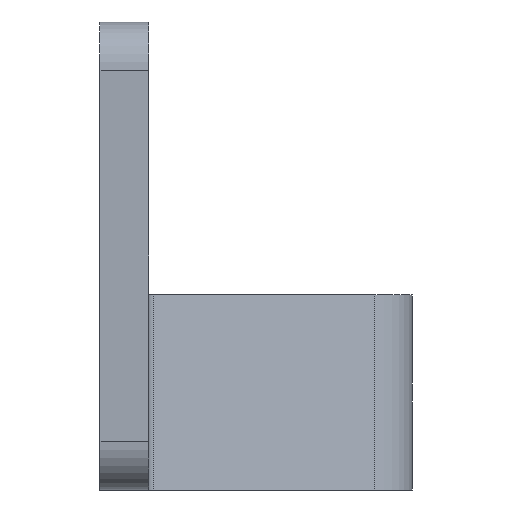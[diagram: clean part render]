
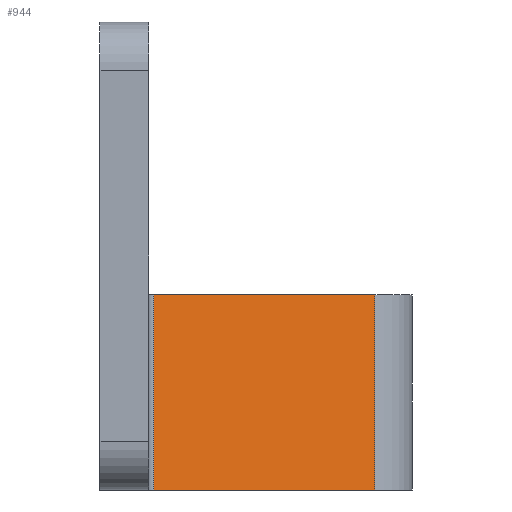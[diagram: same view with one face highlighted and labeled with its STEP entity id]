
A CAD part, left-side view. The second image highlights one B-rep face of the part: STEP entity #944.
In plain terms, the highlighted planar face has unit normal (-0.94, -0.342, 0).
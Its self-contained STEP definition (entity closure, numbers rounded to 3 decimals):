
#116=FACE_OUTER_BOUND('',#173,.T.);
#173=EDGE_LOOP('',(#780,#781,#782,#783));
#259=LINE('',#1556,#353);
#268=LINE('',#1584,#362);
#270=LINE('',#1590,#364);
#271=LINE('',#1591,#365);
#353=VECTOR('',#1262,10.);
#362=VECTOR('',#1289,10.);
#364=VECTOR('',#1295,10.);
#365=VECTOR('',#1296,10.);
#451=VERTEX_POINT('',#1553);
#452=VERTEX_POINT('',#1555);
#462=VERTEX_POINT('',#1583);
#464=VERTEX_POINT('',#1589);
#564=EDGE_CURVE('',#452,#451,#259,.T.);
#578=EDGE_CURVE('',#452,#462,#268,.T.);
#581=EDGE_CURVE('',#451,#464,#270,.T.);
#582=EDGE_CURVE('',#464,#462,#271,.T.);
#780=ORIENTED_EDGE('',*,*,#564,.T.);
#781=ORIENTED_EDGE('',*,*,#581,.T.);
#782=ORIENTED_EDGE('',*,*,#582,.T.);
#783=ORIENTED_EDGE('',*,*,#578,.F.);
#896=PLANE('',#1054);
#944=ADVANCED_FACE('',(#116),#896,.F.);
#1054=AXIS2_PLACEMENT_3D('',#1588,#1293,#1294);
#1262=DIRECTION('',(-0.342,0.94,0.));
#1289=DIRECTION('',(0.,0.,-1.));
#1293=DIRECTION('center_axis',(0.94,0.342,0.));
#1294=DIRECTION('ref_axis',(0.,0.,
1.));
#1295=DIRECTION('',(0.,0.,-1.));
#1296=DIRECTION('',(0.342,-0.94,0.));
#1553=CARTESIAN_POINT('',(-33.309,-5.526,20.));
#1555=CARTESIAN_POINT('',(-25.063,-28.184,20.));
#1556=CARTESIAN_POINT('',(-22.109,-36.3,20.));
#1583=CARTESIAN_POINT('',(-25.063,-28.184,0.));
#1584=CARTESIAN_POINT('',(-25.063,-28.184,24.));
#1588=CARTESIAN_POINT('Origin',(-17.357,-49.356,24.));
#1589=CARTESIAN_POINT('',(-33.309,-5.526,0.));
#1590=CARTESIAN_POINT('',(-33.309,-5.526,24.));
#1591=CARTESIAN_POINT('',(-41.469,16.892,0.));
